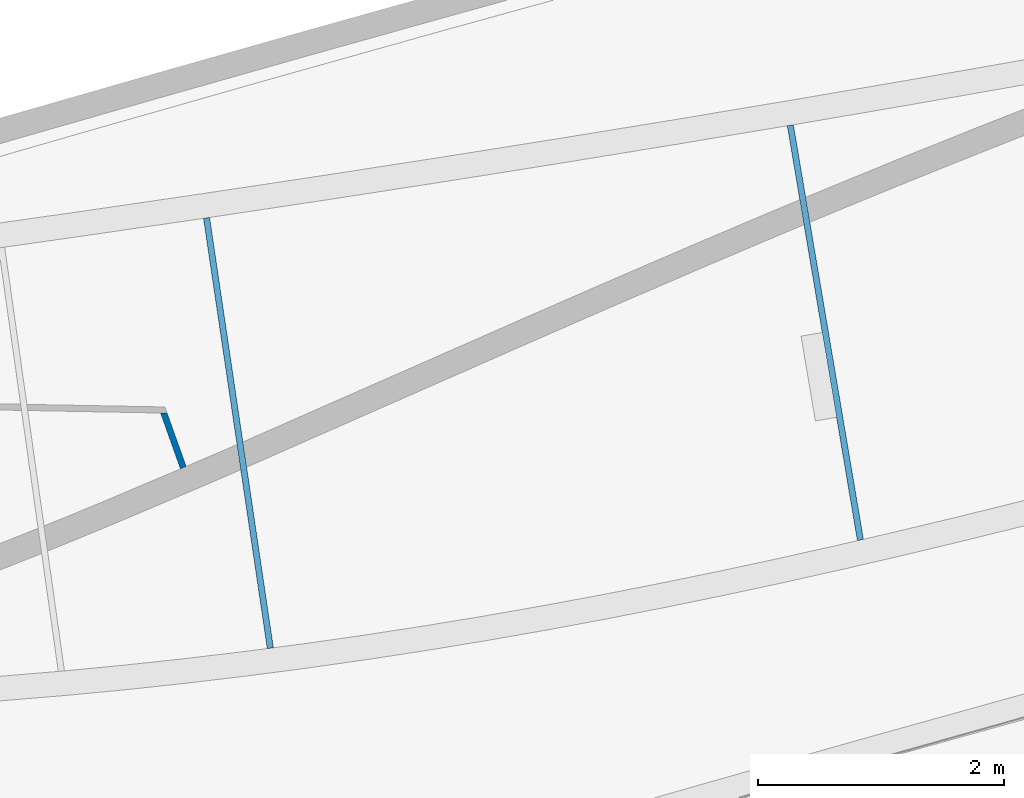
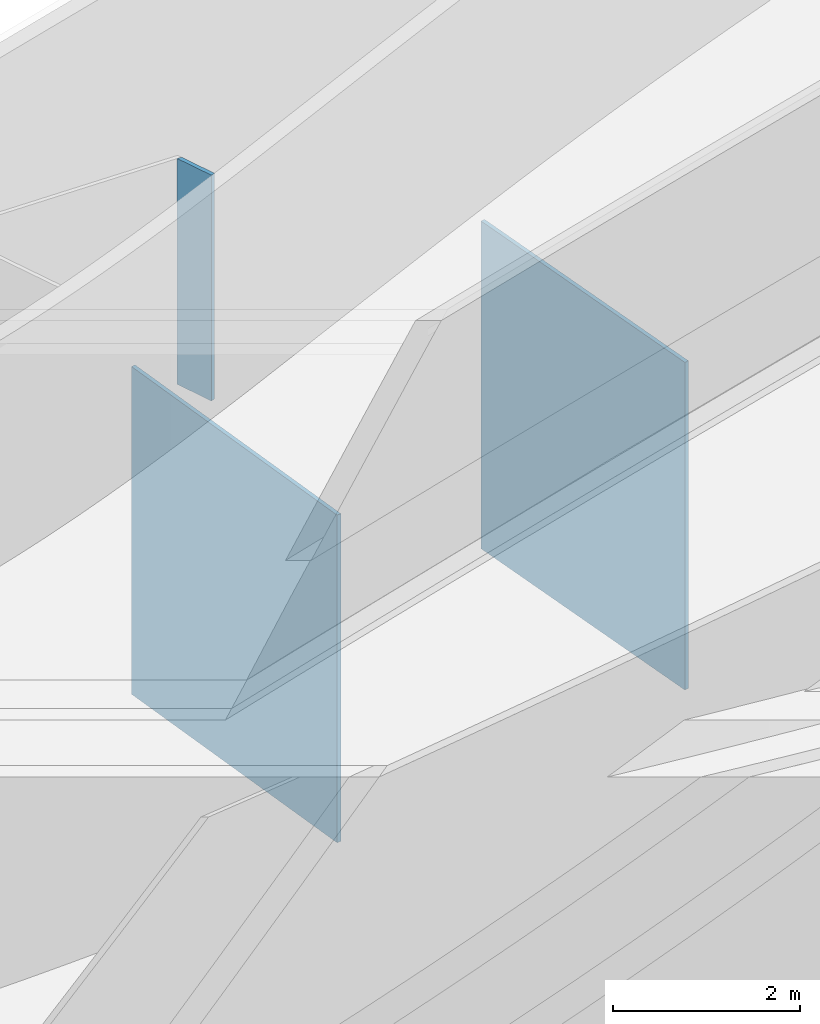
# Not in any storey, part 4 of 14: 3 walls.
"""IFC2X3 model written with IfcOpenShell, lengths in millimetres."""

from ifc_helpers import new_model, entity, si_unit, converted_unit, point, direction, frame, frame_2d, origin_with_axes, place, context, project, spatial, polyline, circle_curve, trimmed, segment, composite_curve, outline, extrude, material, layer, layer_set, layer_usage, type_object, element, save


model = new_model("IFC2X3")

# Units and contexts
model_context = context("Model", 3, precision=1.0, world=origin_with_axes(), true_north=direction((0.0, 1.0)))
ifc_project = project(units=[si_unit("LENGTHUNIT", "METRE", prefix="MILLI"), converted_unit("PLANEANGLEUNIT", "DEGREE", entity("IfcRatioMeasure", 0.017453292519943), si_unit("PLANEANGLEUNIT", "RADIAN"), dimensions=[0, 0, 0, 0, 0, 0, 0])], contexts=[model_context])

# Site
site_placement = place(None, origin_with_axes())
site = spatial("IfcSite", under=ifc_project, at=site_placement, Name="Site", CompositionType="ELEMENT")

# Walls
ifc_material = material(Name="Wall layer 1")
ifc_layer = layer(ifc_material, 50.0)
ifc_layer_set = layer_set([ifc_layer], Name="HOKI 50mm")
ifc_layer_usage = layer_usage(ifc_layer_set, "AXIS2", "POSITIVE", -25.0)
wall_type = type_object("IfcWallType", Name="HOKI 50mm", PredefinedType="STANDARD", material=ifc_layer_set)
wall_1_placement = place(site_placement, frame((-31020.6331364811, -2693.18554125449, 9850.0), z_axis=(0.0, 0.0, 1.0), x_axis=(-0.335924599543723, 0.941888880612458, 0.0)))
element("IfcWallStandardCase", 1, at=wall_1_placement, inside=site, type_object=wall_type, material=ifc_layer_usage, ObjectType="HOKI 50mm", context=model_context, shape_type="SweptSolid", body=[
    extrude(outline(composite_curve([segment(polyline([(633.608363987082, 24.9999999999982), (614.709988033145, -24.9999999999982)]), True, "CONTINUOUS"), segment(polyline([(614.709988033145, -24.9999999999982), (153.520748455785, -25.0)]), True, "CONTINUOUS"), segment(polyline([(153.520748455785, -25.0), (150.622820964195, 24.9999999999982)]), True, "CONTINUOUS"), segment(polyline([(150.622820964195, 24.9999999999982), (633.608363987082, 24.9999999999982)]), True, "CONTINUOUS")], self_intersect="UNKNOWN")), origin_with_axes(), (0.0, 0.0, 1.0), 2950.0),
])
wall_2_placement = place(site_placement, frame((-30363.3457687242, -4019.32478678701, 4720.0), z_axis=(0.0, 0.0, 1.0), x_axis=(-0.14665791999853, 0.989187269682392, 0.0)))
element("IfcWallStandardCase", 2, at=wall_2_placement, inside=site, type_object=wall_type, material=ifc_layer_usage, ObjectType="HOKI 50mm", context=model_context, shape_type="SweptSolid", body=[
    extrude(outline(composite_curve([segment(trimmed(circle_curve(frame_2d((242141.193561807, 24.9999995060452), x_axis=(-1.0, 2.07e-12)), 238599.994846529), [point((3541.19871527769, 24.9999999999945))], [point((3541.20395417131, -25.0000000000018))], True, "CARTESIAN"), True, "CONTINUOUS"), segment(polyline([(3541.20395417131, -25.0000000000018), (-0.720819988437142, -25.0)]), True, "CONTINUOUS"), segment(polyline([(-0.720819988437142, -25.0), (0.164453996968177, 24.9999999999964)]), True, "CONTINUOUS"), segment(polyline([(0.164453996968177, 24.9999999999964), (3541.1987152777, 24.9999999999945)]), True, "CONTINUOUS")], self_intersect="UNKNOWN")), origin_with_axes(), (0.0, 0.0, 1.0), 4280.0),
])
wall_3_placement = place(site_placement, frame((-25558.9450821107, -3140.29854568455, 4500.0), z_axis=(0.0, 0.0, 1.0), x_axis=(-0.166578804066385, 0.986028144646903, 0.0)))
element("IfcWallStandardCase", 3, at=wall_3_placement, inside=site, type_object=wall_type, material=ifc_layer_usage, ObjectType="HOKI 50mm", context=model_context, shape_type="SweptSolid", body=[
    extrude(outline(composite_curve([segment(polyline([(2.89164739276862, -24.9999999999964), (-0.091968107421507, 24.9999999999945)]), True, "CONTINUOUS"), segment(polyline([(-0.091968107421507, 24.9999999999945), (3426.01549598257, 24.9999999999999)]), True, "CONTINUOUS"), segment(polyline([(3426.01549598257, 24.9999999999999), (3426.01549598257, -24.9999999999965)]), True, "CONTINUOUS"), segment(polyline([(3426.01549598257, -24.9999999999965), (2.89164739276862, -24.9999999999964)]), True, "CONTINUOUS")], self_intersect="UNKNOWN")), origin_with_axes(), (0.0, 0.0, 1.0), 4280.0),
])

save(model, "model.ifc")
